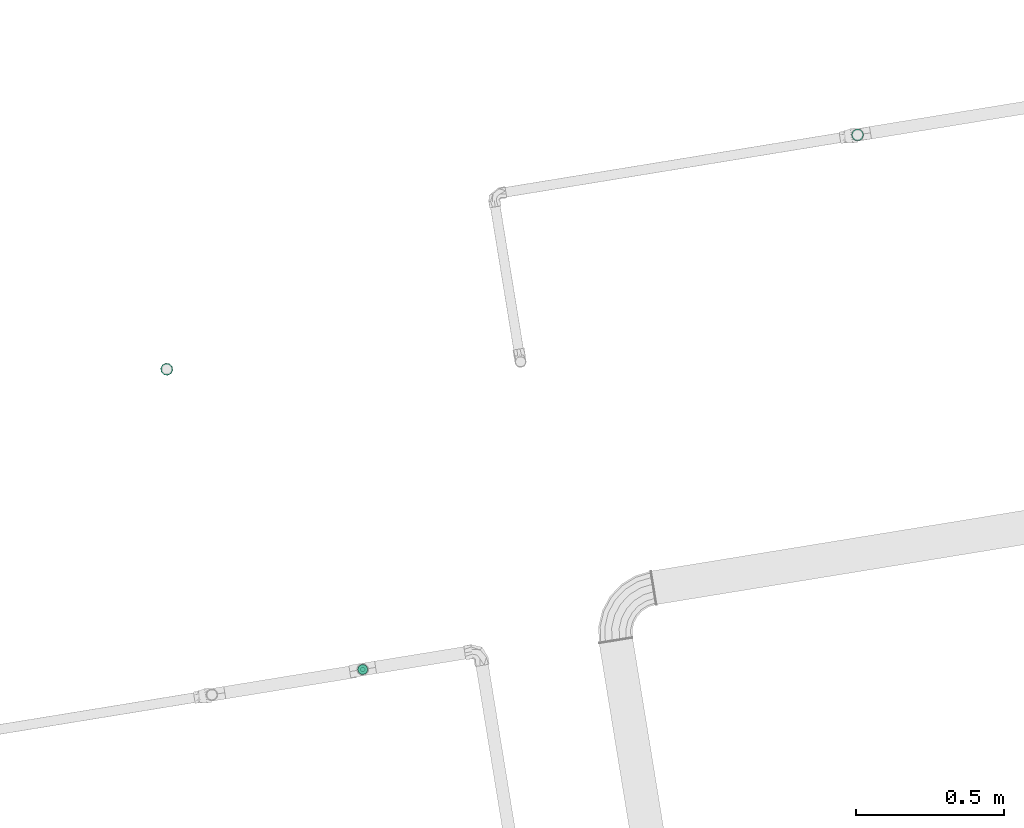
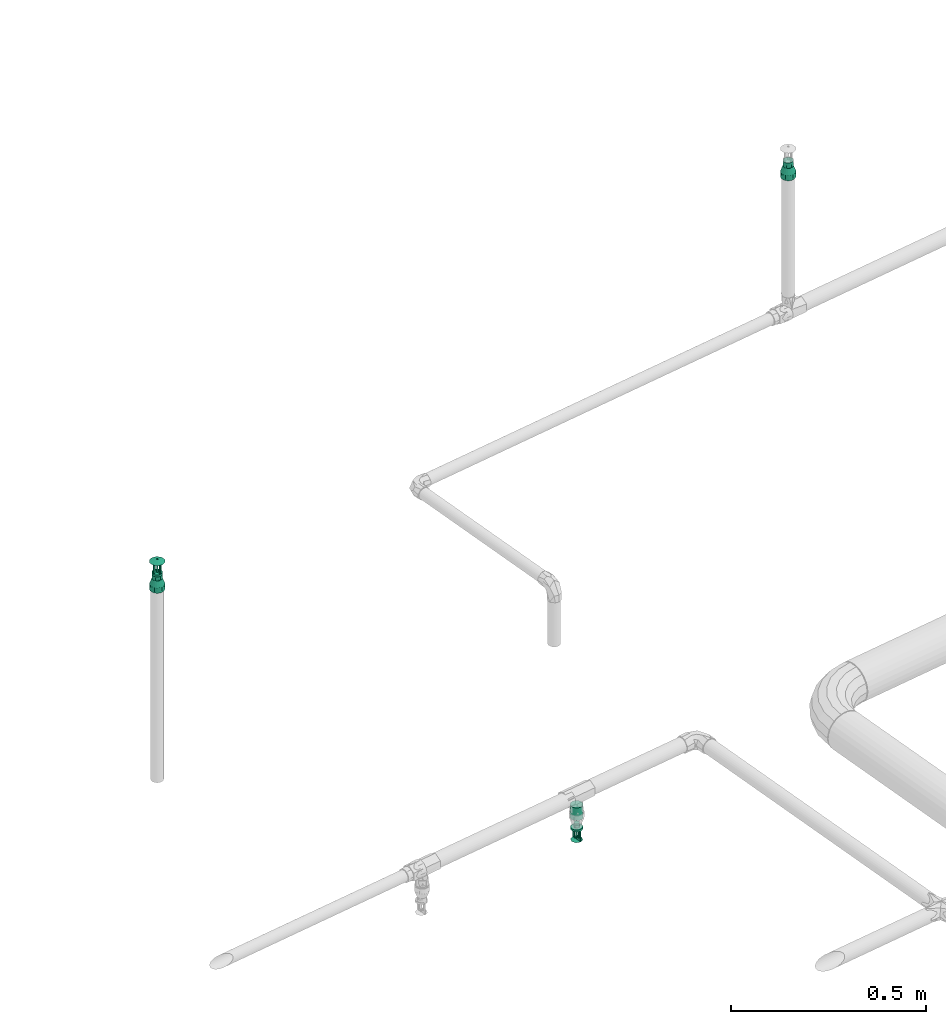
# One storey, part 33 of 46: 2 flow fittings, 2 flow terminals, 1 flow segment.
"""IFC2X3 building model written with IfcOpenShell, lengths in millimetres."""

from ifc_helpers import new_model, entity, si_unit, converted_unit, derived_unit, direction, frame, origin, origin_with_axes, origin_2d_with_axis, place, context, subcontext, project, spatial, circle, extrude, faceted_brep, source, transform, mapped, material, type_object, element, save


model = new_model("IFC2X3")

# Units and contexts
model_context = context("Model", 3, precision=0.01, world=origin(), true_north=direction((6.12323399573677e-17, 1.0)))
plan_context = context("Plan", 3, precision=1e-05, world=origin_with_axes())
body_context = subcontext(model_context, "Body", "Model", "MODEL_VIEW")
ifc_project = project(units=[converted_unit("PLANEANGLEUNIT", "DEGREE", entity("IfcPositiveLengthMeasure", 0.0174532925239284), si_unit("PLANEANGLEUNIT", "RADIAN"), dimensions=[0, 0, 0, 0, 0, 0, 0]), si_unit("AREAUNIT", "SQUARE_METRE"), si_unit("LENGTHUNIT", "METRE", prefix="MILLI"), si_unit("MASSUNIT", "GRAM", prefix="KILO"), si_unit("POWERUNIT", "WATT"), si_unit("PRESSUREUNIT", "PASCAL", prefix="KILO"), si_unit("FORCEUNIT", "NEWTON", prefix="KILO"), si_unit("ELECTRICVOLTAGEUNIT", "VOLT"), si_unit("ELECTRICCURRENTUNIT", "AMPERE"), si_unit("THERMODYNAMICTEMPERATUREUNIT", "DEGREE_CELSIUS"), si_unit("TIMEUNIT", "SECOND"), si_unit("VOLUMEUNIT", "CUBIC_METRE"), derived_unit("LINEARVELOCITYUNIT", [(si_unit("LENGTHUNIT", "METRE"), 1), (si_unit("TIMEUNIT", "SECOND"), -1)]), derived_unit("VOLUMETRICFLOWRATEUNIT", [(si_unit("VOLUMEUNIT", "CUBIC_METRE"), 1), (si_unit("TIMEUNIT", "SECOND"), -1)]), derived_unit("THERMALTRANSMITTANCEUNIT", [(si_unit("POWERUNIT", "WATT"), 1), (si_unit("THERMODYNAMICTEMPERATUREUNIT", "KELVIN"), -1), (si_unit("AREAUNIT", "SQUARE_METRE"), -1)]), derived_unit("SOUNDPRESSUREUNIT", [(si_unit("PRESSUREUNIT", "PASCAL"), 1)])], contexts=[model_context, plan_context])

# Site, building, storey
site_placement = place(None, frame((-3.09682673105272e-06, 1.93776733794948e-05, 0.0), z_axis=(0.0, 0.0, 1.0), x_axis=(-0.160806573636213, 0.986985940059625, 0.0)))
site = spatial("IfcSite", under=ifc_project, at=site_placement, Name="Default", CompositionType="ELEMENT")
building_placement = place(site_placement, frame((0.0, 0.0, 0.0), z_axis=(0.0, 0.0, 1.0), x_axis=(1.0, -2.77555756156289e-17, 0.0)))
building = spatial("IfcBuilding", under=site, at=building_placement, Name="Bygning (endres i Project Information)", CompositionType="ELEMENT")
storey_placement = place(building_placement, frame((0.0, 0.0, 51360.0000000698), z_axis=(0.0, 0.0, 1.0), x_axis=(1.0, -2.77555756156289e-17, 0.0)))
storey = spatial("IfcBuildingStorey", under=building, at=storey_placement, Name="H01-Nivå D+0,36", CompositionType="ELEMENT", Elevation=51360.0000000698)

# Flow fittings
ifc_material = material(Name="3320.001")
pipe_fitting_type = type_object("IfcPipeFittingType", Name="RS_53_PIF_UN_Reducing-Socket-EN10241_MC_gen:RS_53_PIF_UN_Reducing-Socket-EN10241_MC_gen", PredefinedType="NOTDEFINED", material=ifc_material)
shared_shape_1 = source(origin(), body_context, "Body", "Brep", [
    faceted_brep([(0.0, 5.11167614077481, 19.0770350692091), (0.0, 9.87500000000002, 17.1040017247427), (0.0, 13.9653589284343, 13.9653589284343), (0.0, 17.1040017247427, 9.87499999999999), (0.0, 19.0770350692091, 5.11167614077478), (0.0, 19.75, 0.0), (0.0, 19.0770350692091, -5.1116761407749), (0.0, 17.1040017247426, -9.8750000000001), (0.0, 13.9653589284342, -13.9653589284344), (0.0, 9.87499999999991, -17.1040017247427), (0.0, 5.11167614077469, -19.0770350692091), (0.0, 0.0, -19.75), (0.0, -5.11167614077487, -19.0770350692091), (0.0, -9.87500000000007, -17.1040017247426), (0.0, -13.9653589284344, -13.9653589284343), (0.0, -17.1040017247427, -9.87499999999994), (0.0, -19.0770350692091, -5.11167614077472), (0.0, -19.75, 0.0), (0.0, -19.0770350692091, 5.11167614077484), (0.0, -17.1040017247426, 9.87500000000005), (0.0, -13.9653589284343, 13.9653589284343), (0.0, -9.87499999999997, 17.1040017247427), (0.0, -5.11167614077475, 19.0770350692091), (0.0, 0.0, 19.75), (17.0, -6.65118285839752, -18.277344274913), (17.0, -15.1289479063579, -12.6955675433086), (17.0, -16.8438814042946, -9.72538978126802), (17.0, -18.5588149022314, -6.7552120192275), (17.0, -9.87413131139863, -17.1045032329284), (17.0, -12.5015396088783, -14.9000353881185), (17.0, -19.1544074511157, -3.37760600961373), (17.0, -3.42823440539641, -19.4501853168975), (17.0, 3.43119786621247, -19.4496627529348), (17.0, 0.0014817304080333, -19.4499240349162), (17.0, -19.75, 0.0), (17.0, 6.65396758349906, -18.2763306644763), (17.0, 9.87673730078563, -17.1029985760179), (17.0, 18.5598439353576, -6.75238425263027), (17.0, 16.8453630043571, -9.7228232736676), (17.0, 15.1308820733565, -12.6932622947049), (17.0, 12.5038096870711, -14.8981304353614), (17.0, 19.75, 0.0), (17.0, 15.1308820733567, 12.6932622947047), (17.0, 16.8453630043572, 9.72282327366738), (17.0, 18.5598439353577, 6.75238425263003), (17.0, 9.87673730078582, 17.1029985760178), (17.0, 12.5038096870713, 14.8981304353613), (17.0, 3.43119786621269, 19.4496627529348), (17.0, 6.65396758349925, 18.2763306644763), (17.0, -3.4282344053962, 19.4501853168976), (17.0, 0.00148173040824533, 19.4499240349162), (17.0, -15.1289479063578, 12.6955675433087), (17.0, -6.65118285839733, 18.277344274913), (17.0, -9.87413131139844, 17.1045032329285), (17.0, -12.5015396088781, 14.9000353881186), (17.0, -19.1544074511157, 3.37760600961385), (17.0, -18.5588149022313, 6.75521201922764), (17.0, -16.8438814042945, 9.72538978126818), (34.0, 13.5000000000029, 0.0), (34.0, 12.6868795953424, -4.61444320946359), (34.0, -4.54589529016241, -12.4935366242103), (34.0, -2.34276817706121, -13.2951659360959), (34.0, 6.75195505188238, -11.6902139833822), (34.0, 0.00166747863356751, -13.2948718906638), (34.0, 2.34610313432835, -13.2945778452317), (34.0, 10.3432928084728, -8.67561489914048), (34.0, 8.54762393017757, -10.1829144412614), (34.0, 4.54902909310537, -12.492395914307), (34.0, 11.5150862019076, -6.64502905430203), (34.0, -6.74902240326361, -11.6919073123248), (34.0, -13.4999999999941, 0.0), (34.0, -13.0928608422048, -2.30881275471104), (34.0, -10.3411162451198, -8.6782091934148), (34.0, -8.54506932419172, -10.1850582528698), (34.0, -12.6857216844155, -4.61762550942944), (34.0, -11.5134189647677, -6.64791735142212), (34.0, -13.0928608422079, 2.30881275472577), (34.0, -12.6857216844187, 4.6176255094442), (34.0, 2.34610313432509, 13.2945778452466), (34.0, 4.54902909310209, 12.4923959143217), (34.0, -10.3411162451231, 8.67820919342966), (34.0, 0.00166747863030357, 13.2948718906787), (34.0, -6.74902240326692, 11.6919073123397), (34.0, -8.54506932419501, 10.1850582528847), (34.0, -11.5134189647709, 6.64791735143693), (34.0, -2.34276817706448, 13.2951659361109), (34.0, -4.5458952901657, 12.4935366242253), (34.0, 12.6868795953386, 4.61444320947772), (34.0, 11.5150862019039, 6.64502905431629), (34.0, 10.3432928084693, 8.67561489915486), (34.0, 6.7519550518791, 11.6902139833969), (34.0, 8.54762393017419, 10.1829144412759), (51.0, 3.49405710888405, -13.0399986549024), (51.0, 6.75000000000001, -11.6913429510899), (51.0, 9.5459415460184, -9.54594154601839), (51.0, 11.6913429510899, -6.74999999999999), (51.0, 13.0399986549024, -3.49405710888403), (51.0, 13.5, 0.0), (51.0, 13.0399986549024, 3.49405710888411), (51.0, 11.6913429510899, 6.75000000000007), (51.0, 9.54594154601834, 9.54594154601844), (51.0, 6.74999999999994, 11.69134295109), (51.0, 3.49405710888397, 13.0399986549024), (51.0, 0.0, 13.5), (51.0, -3.49405710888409, 13.0399986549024), (51.0, -6.75000000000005, 11.6913429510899), (51.0, -9.54594154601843, 9.54594154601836), (51.0, -11.6913429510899, 6.74999999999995), (51.0, -13.0399986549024, 3.49405710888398), (51.0, -13.5, 0.0), (51.0, -13.0399986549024, -3.49405710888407), (51.0, -11.6913429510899, -6.75000000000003), (51.0, -9.54594154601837, -9.54594154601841), (51.0, -6.74999999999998, -11.6913429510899), (51.0, -3.49405710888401, -13.0399986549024), (51.0, 0.0, -13.5)], [[[0, 1, 2, 3, 4, 5, 6, 7, 8, 9, 10, 11, 12, 13, 14, 15, 16, 17, 18, 19, 20, 21, 22, 23]], [[24, 13, 12]], [[15, 14, 25]], [[15, 25, 26, 27]], [[28, 29, 13]], [[16, 27, 30]], [[30, 17, 16]], [[15, 27, 16]], [[12, 31, 24]], [[25, 14, 29]], [[11, 32, 33, 31]], [[24, 28, 13]], [[13, 29, 14]], [[30, 34, 17]], [[32, 11, 10]], [[35, 9, 36]], [[7, 37, 38, 39]], [[9, 35, 10]], [[7, 6, 37]], [[8, 39, 40]], [[32, 10, 35]], [[7, 39, 8]], [[40, 36, 9]], [[6, 41, 37]], [[6, 5, 41]], [[11, 31, 12]], [[40, 9, 8]], [[41, 5, 4]], [[3, 2, 42]], [[3, 42, 43, 44]], [[45, 46, 1]], [[44, 41, 4]], [[0, 47, 48]], [[42, 2, 46]], [[23, 49, 50, 47]], [[1, 46, 2]], [[49, 23, 22]], [[19, 51, 20]], [[52, 21, 53]], [[3, 44, 4]], [[48, 45, 1]], [[54, 53, 21]], [[17, 34, 55]], [[21, 52, 22]], [[20, 51, 54]], [[49, 22, 52]], [[48, 1, 0]], [[17, 55, 18]], [[56, 19, 18]], [[18, 55, 56]], [[54, 21, 20]], [[57, 51, 19, 56]], [[23, 47, 0]], [[41, 58, 59]], [[60, 31, 61]], [[40, 62, 36]], [[63, 32, 64]], [[65, 39, 38]], [[64, 32, 35]], [[61, 33, 63]], [[37, 41, 59]], [[62, 40, 66]], [[40, 39, 66]], [[35, 36, 67]], [[65, 38, 68]], [[37, 68, 38]], [[64, 35, 67]], [[61, 31, 33]], [[69, 28, 24]], [[69, 24, 60]], [[70, 30, 71]], [[72, 29, 73]], [[30, 70, 34]], [[74, 27, 26]], [[68, 37, 59]], [[72, 25, 29]], [[27, 74, 71]], [[31, 60, 24]], [[29, 28, 73]], [[75, 26, 25]], [[67, 36, 62]], [[66, 39, 65]], [[27, 71, 30]], [[74, 26, 75]], [[73, 28, 69]], [[63, 33, 32]], [[75, 25, 72]], [[56, 76, 77]], [[48, 78, 79]], [[54, 51, 80]], [[81, 47, 50]], [[57, 56, 77]], [[52, 53, 82]], [[82, 53, 83]], [[55, 70, 76]], [[70, 55, 34]], [[84, 51, 57]], [[50, 85, 81]], [[56, 55, 76]], [[86, 49, 52]], [[83, 53, 54]], [[81, 78, 47]], [[48, 47, 78]], [[80, 51, 84]], [[49, 85, 50]], [[87, 44, 88]], [[87, 58, 41]], [[43, 42, 89]], [[57, 77, 84]], [[46, 45, 90]], [[85, 49, 86]], [[88, 44, 43]], [[54, 80, 83]], [[91, 42, 46]], [[52, 82, 86]], [[89, 42, 91]], [[87, 41, 44]], [[90, 45, 79]], [[46, 90, 91]], [[79, 45, 48]], [[43, 89, 88]], [[92, 93, 94, 95, 96, 97, 98, 99, 100, 101, 102, 103, 104, 105, 106, 107, 108, 109, 110, 111, 112, 113, 114, 115]], [[58, 97, 96]], [[95, 94, 65]], [[95, 65, 68, 59]], [[62, 66, 93]], [[59, 58, 96]], [[92, 64, 67]], [[65, 94, 66]], [[115, 61, 63, 64]], [[93, 66, 94]], [[67, 93, 92]], [[67, 62, 93]], [[95, 59, 96]], [[114, 61, 115]], [[111, 110, 74]], [[73, 113, 112]], [[109, 71, 110]], [[111, 74, 75, 72]], [[109, 70, 71]], [[60, 61, 114]], [[113, 69, 60]], [[111, 72, 112]], [[113, 60, 114]], [[112, 72, 73]], [[115, 64, 92]], [[71, 74, 110]], [[73, 69, 113]], [[86, 105, 104]], [[107, 106, 80]], [[107, 80, 84, 77]], [[82, 83, 105]], [[108, 77, 76]], [[76, 70, 109]], [[76, 109, 108]], [[104, 85, 86]], [[80, 106, 83]], [[103, 78, 81, 85]], [[91, 101, 100]], [[105, 83, 106]], [[86, 82, 105]], [[78, 103, 102]], [[79, 101, 90]], [[99, 87, 88, 89]], [[101, 79, 102]], [[99, 98, 87]], [[100, 89, 91]], [[78, 102, 79]], [[103, 85, 104]], [[99, 89, 100]], [[98, 58, 87]], [[107, 77, 108]], [[98, 97, 58]], [[91, 90, 101]]]),
])
for number, where, z_axis, x_axis in (
    (1, (1006288.36764382, -348173.710235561, 3719.81212530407), (2.77555756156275e-17, 0.99999999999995, 3.16675188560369e-07), (-6.61744490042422e-24, -3.16675188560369e-07, 0.99999999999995)),
    (2, (1005883.61028568, -345750.8112969, 3719.81211897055), (2.77555756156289e-17, 1.0, 0.0), (0.0, 0.0, 1.0)),
):
    element("IfcFlowFitting", number, at=place(storey_placement, frame(where, z_axis=z_axis, x_axis=x_axis)), inside=storey, type_object=pipe_fitting_type, material=ifc_material, Name="RS_53_PIF_UN_Reducing-Socket-EN10241_MC_gen:RS_53_PIF_UN_Reducing-Socket-EN10241_MC_gen", ObjectType="RS_53_PIF_UN_Reducing-Socket-EN10241_MC_gen:RS_53_PIF_UN_Reducing-Socket-EN10241_MC_gen", context=body_context, shape_type="MappedRepresentation", body=[
        mapped(shared_shape_1, transform((0.0, 0.0, 0.0), scale=1.0)),
    ])

# Flow terminals
fire_suppression_terminal_type_1 = type_object("IfcFireSuppressionTerminalType", Name="SU-15-K80-68DGR-STD:SU-15-K80-68DGR-STD", PredefinedType="NOTDEFINED", material=ifc_material)
shared_shape_2 = source(origin(), body_context, "Body", "Brep", [
    faceted_brep([(-2.5, 0.0, 62.0), (0.0, -2.5, 62.0), (2.5, 0.0, 62.0), (0.0, 2.5, 62.0), (0.0, 2.5, 59.0), (2.5, 0.0, 59.0), (0.0, -2.5, 59.0), (-2.5, 0.0, 59.0)], [[[0, 1, 2, 3]], [[4, 5, 6, 7]], [[3, 4, 7, 0]], [[2, 5, 4, 3]], [[1, 6, 5, 2]], [[0, 7, 6, 1]]]),
    faceted_brep([(1.0, 13.5, 47.0), (1.0, -13.5, 47.0), (1.0, -13.5, 19.0), (1.0, -8.5, 19.0), (1.0, -8.5, 42.0), (1.0, 8.5, 42.0), (1.0, 8.5, 19.0), (1.0, 13.5, 19.0), (-1.0, 13.5, 47.0), (-1.0, 13.5, 19.0), (-1.0, 8.5, 19.0), (-1.0, 8.5, 42.0), (-1.0, -8.5, 42.0), (-1.0, -8.5, 19.0), (-1.0, -13.5, 19.0), (-1.0, -13.5, 47.0)], [[[0, 1, 2, 3, 4, 5, 6, 7]], [[8, 9, 10, 11, 12, 13, 14, 15]], [[7, 9, 8, 0]], [[6, 10, 9, 7]], [[5, 11, 10, 6]], [[4, 12, 11, 5]], [[3, 13, 12, 4]], [[2, 14, 13, 3]], [[1, 15, 14, 2]], [[0, 8, 15, 1]]]),
    faceted_brep([(-13.5, -1.0, 47.0), (-13.5, -1.0, 19.0), (-8.5, -1.0, 19.0), (-8.5, -1.0, 42.0), (8.5, -1.0, 42.0), (8.5, -1.0, 19.0), (13.5, -1.0, 19.0), (13.5, -1.0, 47.0), (-13.5, 1.0, 47.0), (13.5, 1.0, 47.0), (13.5, 1.0, 19.0), (8.5, 1.0, 19.0), (8.5, 1.0, 42.0), (-8.5, 1.0, 42.0), (-8.5, 1.0, 19.0), (-13.5, 1.0, 19.0)], [[[0, 1, 2, 3, 4, 5, 6, 7]], [[8, 9, 10, 11, 12, 13, 14, 15]], [[7, 9, 8, 0]], [[6, 10, 9, 7]], [[5, 11, 10, 6]], [[4, 12, 11, 5]], [[3, 13, 12, 4]], [[2, 14, 13, 3]], [[1, 15, 14, 2]], [[0, 8, 15, 1]]]),
    faceted_brep([(2.5, 0.0, 59.0), (0.0, 2.5, 59.0), (-2.5, 0.0, 59.0), (0.0, -2.5, 59.0), (-6.48935688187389, -19.9721868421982, 53.0), (-16.9893568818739, -12.3434902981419, 53.0), (-21.0, 0.0, 53.0), (-16.9893568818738, 12.343490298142, 53.0), (-6.48935688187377, 19.9721868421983, 53.0), (6.48935688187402, 19.9721868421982, 53.0), (16.989356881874, 12.3434902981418, 53.0), (21.0, 0.0, 53.0), (16.9893568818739, -12.3434902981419, 53.0), (6.4893568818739, -19.9721868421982, 53.0)], [[[0, 1, 2, 3]], [[4, 5, 6, 7, 8, 9, 10, 11, 12, 13]], [[10, 0, 11]], [[10, 9, 1]], [[1, 0, 10]], [[7, 2, 1]], [[8, 7, 1]], [[6, 2, 7]], [[9, 8, 1]], [[5, 2, 6]], [[5, 4, 3]], [[3, 2, 5]], [[12, 0, 3]], [[13, 12, 3]], [[11, 0, 12]], [[4, 13, 3]]]),
    faceted_brep([(-2.5, 0.0, 53.0), (0.0, -2.5, 53.0), (2.5, 0.0, 53.0), (0.0, 2.5, 53.0), (0.0, 2.5, 19.0), (2.5, 0.0, 19.0), (0.0, -2.5, 19.0), (-2.5, 0.0, 19.0)], [[[0, 1, 2, 3]], [[4, 5, 6, 7]], [[3, 4, 7, 0]], [[2, 5, 4, 3]], [[1, 6, 5, 2]], [[0, 7, 6, 1]]]),
    faceted_brep([(7.0, 12.1243556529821, 19.0), (3.62346663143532, 13.5229615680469, 19.0), (0.0, 14.0, 19.0), (-3.62346663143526, 13.522961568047, 19.0), (-7.0, 12.1243556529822, 19.0), (-9.89949493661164, 9.89949493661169, 19.0), (-12.1243556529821, 7.0, 19.0), (-13.5229615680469, 3.62346663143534, 19.0), (-14.0, 0.0, 19.0), (-13.5229615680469, -3.62346663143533, 19.0), (-12.1243556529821, -7.0, 19.0), (-9.89949493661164, -9.89949493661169, 19.0), (-7.0, -12.1243556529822, 19.0), (-3.62346663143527, -13.522961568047, 19.0), (0.0, -14.0, 19.0), (3.62346663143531, -13.522961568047, 19.0), (7.0, -12.1243556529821, 19.0), (9.89949493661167, -9.89949493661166, 19.0), (12.1243556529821, -7.0, 19.0), (13.522961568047, -3.62346663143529, 19.0), (14.0, 0.0, 19.0), (13.522961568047, 3.62346663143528, 19.0), (12.1243556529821, 7.0, 19.0), (9.89949493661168, 9.89949493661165, 19.0), (9.89949493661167, -9.89949493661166, 13.0), (7.0, -12.1243556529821, 13.0), (3.62346663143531, -13.522961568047, 13.0), (0.0, -14.0, 13.0), (-3.62346663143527, -13.522961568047, 13.0), (-7.0, -12.1243556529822, 13.0), (-9.89949493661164, -9.89949493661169, 13.0), (-12.1243556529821, -7.0, 13.0), (-13.5229615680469, -3.62346663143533, 13.0), (-14.0, 0.0, 13.0), (-13.5229615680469, 3.62346663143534, 13.0), (-12.1243556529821, 7.0, 13.0), (-9.89949493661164, 9.89949493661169, 13.0), (-7.0, 12.1243556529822, 13.0), (-3.62346663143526, 13.522961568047, 13.0), (0.0, 14.0, 13.0), (3.62346663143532, 13.5229615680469, 13.0), (7.0, 12.1243556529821, 13.0), (9.89949493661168, 9.89949493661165, 13.0), (12.1243556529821, 7.0, 13.0), (13.522961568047, 3.62346663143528, 13.0), (14.0, 0.0, 13.0), (13.522961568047, -3.62346663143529, 13.0), (12.1243556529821, -7.0, 13.0)], [[[0, 1, 2, 3, 4, 5, 6, 7, 8, 9, 10, 11, 12, 13, 14, 15, 16, 17, 18, 19, 20, 21, 22, 23]], [[24, 25, 26, 27, 28, 29, 30, 31, 32, 33, 34, 35, 36, 37, 38, 39, 40, 41, 42, 43, 44, 45, 46, 47]], [[33, 8, 7, 34]], [[34, 7, 6, 35]], [[37, 36, 5, 4]], [[5, 36, 35, 6]], [[38, 37, 4, 3]], [[38, 3, 2, 39]], [[39, 2, 1, 40]], [[40, 1, 0, 41]], [[43, 42, 23, 22]], [[23, 42, 41, 0]], [[44, 43, 22, 21]], [[44, 21, 20, 45]], [[45, 20, 19, 46]], [[46, 19, 18, 47]], [[25, 24, 17, 16]], [[17, 24, 47, 18]], [[26, 25, 16, 15]], [[26, 15, 14, 27]], [[27, 14, 13, 28]], [[28, 13, 12, 29]], [[31, 30, 11, 10]], [[11, 30, 29, 12]], [[32, 31, 10, 9]], [[32, 9, 8, 33]]]),
    faceted_brep([(3.75000000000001, 6.49519052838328, 13.0), (1.94114283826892, 7.24444369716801, 13.0), (0.0, 7.5, 13.0), (-1.94114283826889, 7.24444369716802, 13.0), (-3.74999999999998, 6.4951905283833, 13.0), (-5.30330085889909, 5.30330085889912, 13.0), (-6.49519052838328, 3.75000000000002, 13.0), (-7.244443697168, 1.94114283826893, 13.0), (-7.5, 0.0, 13.0), (-7.24444369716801, -1.94114283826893, 13.0), (-6.49519052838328, -3.75000000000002, 13.0), (-5.3033008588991, -5.30330085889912, 13.0), (-3.74999999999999, -6.4951905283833, 13.0), (-1.94114283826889, -7.24444369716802, 13.0), (0.0, -7.5, 13.0), (1.94114283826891, -7.24444369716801, 13.0), (3.75000000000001, -6.49519052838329, 13.0), (5.30330085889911, -5.3033008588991, 13.0), (6.49519052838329, -3.75, 13.0), (7.24444369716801, -1.9411428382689, 13.0), (7.5, 0.0, 13.0), (7.24444369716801, 1.9411428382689, 13.0), (6.49519052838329, 3.75, 13.0), (5.30330085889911, 5.3033008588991, 13.0), (5.30330085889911, -5.3033008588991, 0.0), (3.75000000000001, -6.49519052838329, 0.0), (1.94114283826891, -7.24444369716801, 0.0), (0.0, -7.5, 0.0), (-1.94114283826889, -7.24444369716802, 0.0), (-3.74999999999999, -6.4951905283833, 0.0), (-5.3033008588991, -5.30330085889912, 0.0), (-6.49519052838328, -3.75000000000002, 0.0), (-7.24444369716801, -1.94114283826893, 0.0), (-7.5, 0.0, 0.0), (-7.244443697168, 1.94114283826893, 0.0), (-6.49519052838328, 3.75000000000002, 0.0), (-5.30330085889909, 5.30330085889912, 0.0), (-3.74999999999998, 6.4951905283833, 0.0), (-1.94114283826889, 7.24444369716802, 0.0), (0.0, 7.5, 0.0), (1.94114283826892, 7.24444369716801, 0.0), (3.75000000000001, 6.49519052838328, 0.0), (5.30330085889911, 5.3033008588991, 0.0), (6.49519052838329, 3.75, 0.0), (7.24444369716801, 1.9411428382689, 0.0), (7.5, 0.0, 0.0), (7.24444369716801, -1.9411428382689, 0.0), (6.49519052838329, -3.75, 0.0)], [[[0, 1, 2, 3, 4, 5, 6, 7, 8, 9, 10, 11, 12, 13, 14, 15, 16, 17, 18, 19, 20, 21, 22, 23]], [[24, 25, 26, 27, 28, 29, 30, 31, 32, 33, 34, 35, 36, 37, 38, 39, 40, 41, 42, 43, 44, 45, 46, 47]], [[33, 8, 7, 34]], [[34, 7, 6, 35]], [[37, 36, 5, 4]], [[5, 36, 35, 6]], [[38, 37, 4, 3]], [[38, 3, 2, 39]], [[39, 2, 1, 40]], [[40, 1, 0, 41]], [[43, 42, 23, 22]], [[23, 42, 41, 0]], [[44, 43, 22, 21]], [[44, 21, 20, 45]], [[45, 20, 19, 46]], [[46, 19, 18, 47]], [[25, 24, 17, 16]], [[17, 24, 47, 18]], [[26, 25, 16, 15]], [[26, 15, 14, 27]], [[27, 14, 13, 28]], [[28, 13, 12, 29]], [[31, 30, 11, 10]], [[11, 30, 29, 12]], [[32, 31, 10, 9]], [[32, 9, 8, 33]]]),
])
flow_terminal_1_placement = place(storey_placement, frame((1005883.61028568, -345750.8112969, 3753.81211897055), z_axis=(0.0, 0.0, 1.0), x_axis=(-1.0, 2.77555756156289e-17, 0.0)))
element("IfcFlowTerminal", 3, at=flow_terminal_1_placement, inside=storey, type_object=fire_suppression_terminal_type_1, material=ifc_material, Name="SU-15-K80-68DGR-STD:SU-15-K80-68DGR-STD", ObjectType="SU-15-K80-68DGR-STD:SU-15-K80-68DGR-STD", context=body_context, shape_type="MappedRepresentation", body=[
    mapped(shared_shape_2, transform((0.0, 0.0, 0.0), scale=1.0)),
])
fire_suppression_terminal_type_2 = type_object("IfcFireSuppressionTerminalType", Name="SSP K80 HIMLING:SP-15-K80-68DGR-RS", PredefinedType="NOTDEFINED", material=ifc_material)
shared_shape_3 = source(origin(), body_context, "Body", "Brep", [
    faceted_brep([(-2.5, 0.0, 57.0), (0.0, -2.5, 57.0), (2.5, 0.0, 57.0), (0.0, 2.5, 57.0), (0.0, 2.5, 53.0), (2.5, 0.0, 53.0), (0.0, -2.5, 53.0), (-2.5, 0.0, 53.0)], [[[0, 1, 2, 3]], [[4, 5, 6, 7]], [[3, 4, 7, 0]], [[2, 5, 4, 3]], [[1, 6, 5, 2]], [[0, 7, 6, 1]]]),
    faceted_brep([(1.0, 15.5, 51.0), (1.0, -15.5, 51.0), (1.0, -15.5, 19.0), (1.0, -10.5, 19.0), (1.0, -10.5, 45.0), (1.0, 10.5, 45.0), (1.0, 10.5, 19.0), (1.0, 15.5, 19.0), (-1.0, 15.5, 51.0), (-1.0, 15.5, 19.0), (-1.0, 10.5, 19.0), (-1.0, 10.5, 45.0), (-1.0, -10.5, 45.0), (-1.0, -10.5, 19.0), (-1.0, -15.5, 19.0), (-1.0, -15.5, 51.0)], [[[0, 1, 2, 3, 4, 5, 6, 7]], [[8, 9, 10, 11, 12, 13, 14, 15]], [[7, 9, 8, 0]], [[6, 10, 9, 7]], [[5, 11, 10, 6]], [[4, 12, 11, 5]], [[3, 13, 12, 4]], [[2, 14, 13, 3]], [[1, 15, 14, 2]], [[0, 8, 15, 1]]]),
    faceted_brep([(-8.5, -1.0, 45.0), (-8.5, -1.0, 19.0), (-5.5, -1.0, 19.0), (-5.5, -1.0, 42.0), (5.5, -1.0, 42.0), (5.5, -1.0, 19.0), (8.5, -1.0, 19.0), (8.5, -1.0, 45.0), (-8.5, 1.0, 45.0), (8.5, 1.0, 45.0), (8.5, 1.0, 19.0), (5.5, 1.0, 19.0), (5.5, 1.0, 42.0), (-5.5, 1.0, 42.0), (-5.5, 1.0, 19.0), (-8.5, 1.0, 19.0)], [[[0, 1, 2, 3, 4, 5, 6, 7]], [[8, 9, 10, 11, 12, 13, 14, 15]], [[7, 9, 8, 0]], [[6, 10, 9, 7]], [[5, 11, 10, 6]], [[4, 12, 11, 5]], [[3, 13, 12, 4]], [[2, 14, 13, 3]], [[1, 15, 14, 2]], [[0, 8, 15, 1]]]),
    faceted_brep([(16.0, 0.0, 53.0), (11.3137084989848, 11.3137084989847, 53.0), (0.0, 16.0, 53.0), (-11.3137084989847, 11.3137084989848, 53.0), (-16.0, 0.0, 53.0), (-11.3137084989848, -11.3137084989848, 53.0), (0.0, -16.0, 53.0), (11.3137084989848, -11.3137084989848, 53.0), (2.5, 0.0, 51.0), (0.0, -2.5, 51.0), (-2.5, 0.0, 51.0), (0.0, 2.5, 51.0)], [[[0, 1, 2, 3, 4, 5, 6, 7]], [[8, 9, 10, 11]], [[2, 11, 3]], [[10, 3, 11]], [[10, 4, 3]], [[1, 8, 11]], [[8, 1, 0]], [[2, 1, 11]], [[6, 9, 7]], [[8, 7, 9]], [[8, 0, 7]], [[5, 10, 9]], [[10, 5, 4]], [[6, 5, 9]]]),
    faceted_brep([(11.3137084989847, 11.3137084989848, 19.0), (8.0, 13.8564064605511, 19.0), (4.14110472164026, 15.4548132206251, 19.0), (0.0, 16.0, 19.0), (-4.1411047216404, 15.4548132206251, 19.0), (-8.0, 13.856406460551, 19.0), (-11.3137084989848, 11.3137084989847, 19.0), (-13.8564064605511, 8.0, 19.0), (-15.4548132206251, 4.14110472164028, 19.0), (-16.0, 0.0, 19.0), (-15.4548132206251, -4.14110472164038, 19.0), (-13.856406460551, -8.0, 19.0), (-11.3137084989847, -11.3137084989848, 19.0), (-8.0, -13.856406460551, 19.0), (-4.14110472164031, -15.4548132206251, 19.0), (0.0, -16.0, 19.0), (4.14110472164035, -15.4548132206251, 19.0), (8.0, -13.856406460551, 19.0), (11.3137084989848, -11.3137084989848, 19.0), (13.856406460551, -8.0, 19.0), (15.4548132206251, -4.14110472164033, 19.0), (16.0, 0.0, 19.0), (15.4548132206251, 4.14110472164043, 19.0), (13.856406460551, 8.0, 19.0), (0.0, -16.0, 13.0), (-4.14110472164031, -15.4548132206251, 13.0), (-8.0, -13.856406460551, 13.0), (-11.3137084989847, -11.3137084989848, 13.0), (-13.856406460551, -8.0, 13.0), (-15.4548132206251, -4.14110472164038, 13.0), (-16.0, 0.0, 13.0), (-15.4548132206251, 4.14110472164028, 13.0), (-13.8564064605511, 8.0, 13.0), (-11.3137084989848, 11.3137084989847, 13.0), (-8.0, 13.856406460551, 13.0), (-4.1411047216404, 15.4548132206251, 13.0), (0.0, 16.0, 13.0), (4.14110472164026, 15.4548132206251, 13.0), (8.0, 13.8564064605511, 13.0), (11.3137084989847, 11.3137084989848, 13.0), (13.856406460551, 8.0, 13.0), (15.4548132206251, 4.14110472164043, 13.0), (16.0, 0.0, 13.0), (15.4548132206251, -4.14110472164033, 13.0), (13.856406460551, -8.0, 13.0), (11.3137084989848, -11.3137084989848, 13.0), (8.0, -13.856406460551, 13.0), (4.14110472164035, -15.4548132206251, 13.0)], [[[0, 1, 2, 3, 4, 5, 6, 7, 8, 9, 10, 11, 12, 13, 14, 15, 16, 17, 18, 19, 20, 21, 22, 23]], [[24, 25, 26, 27, 28, 29, 30, 31, 32, 33, 34, 35, 36, 37, 38, 39, 40, 41, 42, 43, 44, 45, 46, 47]], [[30, 9, 8, 31]], [[31, 8, 7, 32]], [[34, 33, 6, 5]], [[6, 33, 32, 7]], [[35, 34, 5, 4]], [[35, 4, 3, 36]], [[36, 3, 2, 37]], [[37, 2, 1, 38]], [[40, 39, 0, 23]], [[0, 39, 38, 1]], [[41, 40, 23, 22]], [[41, 22, 21, 42]], [[42, 21, 20, 43]], [[43, 20, 19, 44]], [[46, 45, 18, 17]], [[18, 45, 44, 19]], [[47, 46, 17, 16]], [[47, 16, 15, 24]], [[24, 15, 14, 25]], [[25, 14, 13, 26]], [[28, 27, 12, 11]], [[12, 27, 26, 13]], [[29, 28, 11, 10]], [[29, 10, 9, 30]]]),
    faceted_brep([(-2.5, 0.0, 51.0), (0.0, -2.5, 51.0), (2.5, 0.0, 51.0), (0.0, 2.5, 51.0), (0.0, 2.5, 19.0), (2.5, 0.0, 19.0), (0.0, -2.5, 19.0), (-2.5, 0.0, 19.0)], [[[0, 1, 2, 3]], [[4, 5, 6, 7]], [[3, 4, 7, 0]], [[2, 5, 4, 3]], [[1, 6, 5, 2]], [[0, 7, 6, 1]]]),
    faceted_brep([(3.75000000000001, 6.49519052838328, 13.0), (1.94114283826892, 7.24444369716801, 13.0), (0.0, 7.5, 13.0), (-1.94114283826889, 7.24444369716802, 13.0), (-3.74999999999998, 6.4951905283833, 13.0), (-5.30330085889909, 5.30330085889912, 13.0), (-6.49519052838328, 3.75000000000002, 13.0), (-7.244443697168, 1.94114283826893, 13.0), (-7.5, 0.0, 13.0), (-7.24444369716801, -1.94114283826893, 13.0), (-6.49519052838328, -3.75000000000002, 13.0), (-5.3033008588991, -5.30330085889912, 13.0), (-3.74999999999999, -6.4951905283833, 13.0), (-1.94114283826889, -7.24444369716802, 13.0), (0.0, -7.5, 13.0), (1.94114283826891, -7.24444369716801, 13.0), (3.75000000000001, -6.49519052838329, 13.0), (5.30330085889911, -5.3033008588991, 13.0), (6.49519052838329, -3.75, 13.0), (7.24444369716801, -1.9411428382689, 13.0), (7.5, 0.0, 13.0), (7.24444369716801, 1.9411428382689, 13.0), (6.49519052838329, 3.75, 13.0), (5.30330085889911, 5.3033008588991, 13.0), (5.30330085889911, -5.3033008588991, 0.0), (3.75000000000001, -6.49519052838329, 0.0), (1.94114283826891, -7.24444369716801, 0.0), (0.0, -7.5, 0.0), (-1.94114283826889, -7.24444369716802, 0.0), (-3.74999999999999, -6.4951905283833, 0.0), (-5.3033008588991, -5.30330085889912, 0.0), (-6.49519052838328, -3.75000000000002, 0.0), (-7.24444369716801, -1.94114283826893, 0.0), (-7.5, 0.0, 0.0), (-7.244443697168, 1.94114283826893, 0.0), (-6.49519052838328, 3.75000000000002, 0.0), (-5.30330085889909, 5.30330085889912, 0.0), (-3.74999999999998, 6.4951905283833, 0.0), (-1.94114283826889, 7.24444369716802, 0.0), (0.0, 7.5, 0.0), (1.94114283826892, 7.24444369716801, 0.0), (3.75000000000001, 6.49519052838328, 0.0), (5.30330085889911, 5.3033008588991, 0.0), (6.49519052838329, 3.75, 0.0), (7.24444369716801, 1.9411428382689, 0.0), (7.5, 0.0, 0.0), (7.24444369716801, -1.9411428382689, 0.0), (6.49519052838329, -3.75, 0.0)], [[[0, 1, 2, 3, 4, 5, 6, 7, 8, 9, 10, 11, 12, 13, 14, 15, 16, 17, 18, 19, 20, 21, 22, 23]], [[24, 25, 26, 27, 28, 29, 30, 31, 32, 33, 34, 35, 36, 37, 38, 39, 40, 41, 42, 43, 44, 45, 46, 47]], [[33, 8, 7, 34]], [[34, 7, 6, 35]], [[37, 36, 5, 4]], [[5, 36, 35, 6]], [[38, 37, 4, 3]], [[38, 3, 2, 39]], [[39, 2, 1, 40]], [[40, 1, 0, 41]], [[43, 42, 23, 22]], [[23, 42, 41, 0]], [[44, 43, 22, 21]], [[44, 21, 20, 45]], [[45, 20, 19, 46]], [[46, 19, 18, 47]], [[25, 24, 17, 16]], [[17, 24, 47, 18]], [[26, 25, 16, 15]], [[26, 15, 14, 27]], [[27, 14, 13, 28]], [[28, 13, 12, 29]], [[31, 30, 11, 10]], [[11, 30, 29, 12]], [[32, 31, 10, 9]], [[32, 9, 8, 33]]]),
])
flow_terminal_2_placement = place(storey_placement, frame((1004779.64983251, -346239.575122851, 3370.0), z_axis=(0.0, 0.0, -1.0), x_axis=(2.77555756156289e-17, 1.0, 0.0)))
element("IfcFlowTerminal", 4, at=flow_terminal_2_placement, inside=storey, type_object=fire_suppression_terminal_type_2, material=ifc_material, Name="SSP K80 HIMLING:SP-15-K80-68DGR-RS", ObjectType="SSP K80 HIMLING:SP-15-K80-68DGR-RS", context=body_context, shape_type="MappedRepresentation", body=[
    mapped(shared_shape_3, transform((0.0, 0.0, 0.0), scale=1.0)),
])

# Flow segment
pipe_segment_type = type_object("IfcPipeSegmentType", Name="Pipe Types:Stålrør sveist og gjenget", PredefinedType="NOTDEFINED", material=ifc_material)
flow_segment_placement = place(storey_placement, frame((0.0, 0.0, 0.0), z_axis=(0.0, 0.0, 1.0), x_axis=(1.0, -2.77555756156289e-17, 0.0)))
element("IfcFlowSegment", 5, at=flow_segment_placement, inside=storey, type_object=pipe_segment_type, Name="Pipe Types:Stålrør sveist og gjenget", ObjectType="Pipe Types:Stålrør sveist og gjenget", context=body_context, shape_type="SweptSolid", body=[
    extrude(circle(Radius=16.8500004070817, at=origin_2d_with_axis()), frame((1004779.64983251, -346239.575122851, 3387.0)), (0.0, 0.0, 1.0), 39.9000262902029),
])

save(model, "model.ifc")
